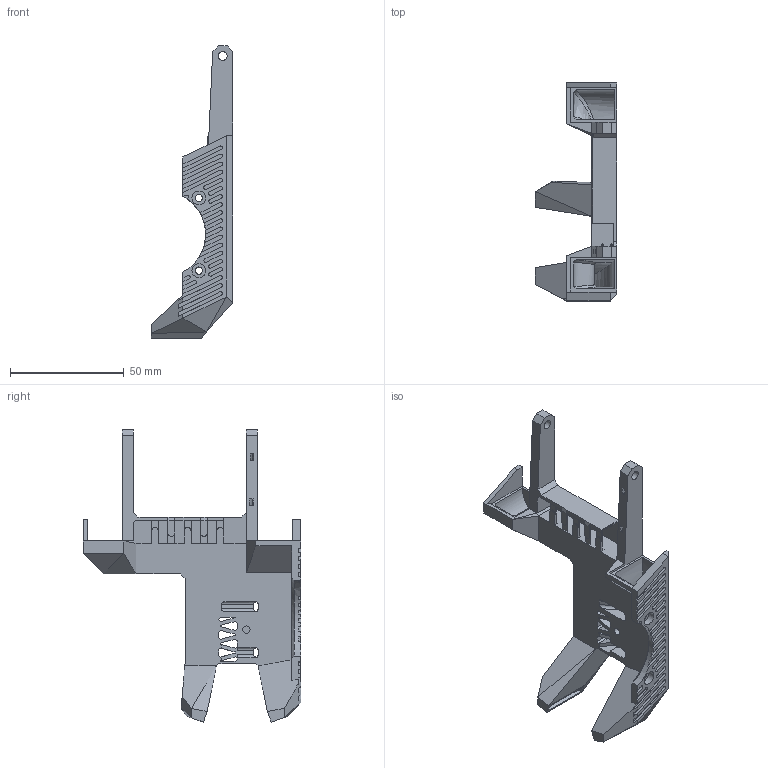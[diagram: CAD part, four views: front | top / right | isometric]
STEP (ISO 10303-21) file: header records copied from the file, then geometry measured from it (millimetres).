
FILE_DESCRIPTION(/* description */ ('CAx-IF Rec.Pracs.---Representation and Presentation of Product Manufacturing Information (PMI)---4.0---2014-10-13','CAx-IF Rec.Pracs.---3D Tessellated Geometry---0.4---2014-09-14','2;1'),/* implementation_level */ '2;1');
FILE_NAME(/* name */ 'B1V5015R',/* time_stamp */ '2025-06-16T17:35:05+03:00',/* author */ (''),/* organization */ (''),/* preprocessor_version */ 'ST-DEVELOPER v20',/* originating_system */ 'SIEMENS PLM Software NX2406.6001',/* authorisation */ $);
FILE_SCHEMA (('AP242_MANAGED_MODEL_BASED_3D_ENGINEERING_MIM_LF { 1 0 10303 442 3 1 4 }'));
Length unit declared in the file: millimetre
Products named in the file (1): B1V5015R
Bounding box: 36 x 95.85 x 128.62 mm (x, y, z)
Volume: 39617.7 mm3; surface area: 31017.8 mm2
Topology: 1 solids, 1 shells, 594 faces, 1631 edges, 1064 vertices
Faces by surface type: plane 450, cylinder 93, bspline 50, cone 1
Full cylindrical faces by diameter (mm): 1 x2, 3.2 x3, 4 x2, 6 x3
Entity records: 21053 total; most frequent: CARTESIAN_POINT 6213, ORIENTED_EDGE 3230, DIRECTION 2753, EDGE_CURVE 1615, LINE 1251, VECTOR 1251, VERTEX_POINT 1058, AXIS2_PLACEMENT_3D 751
